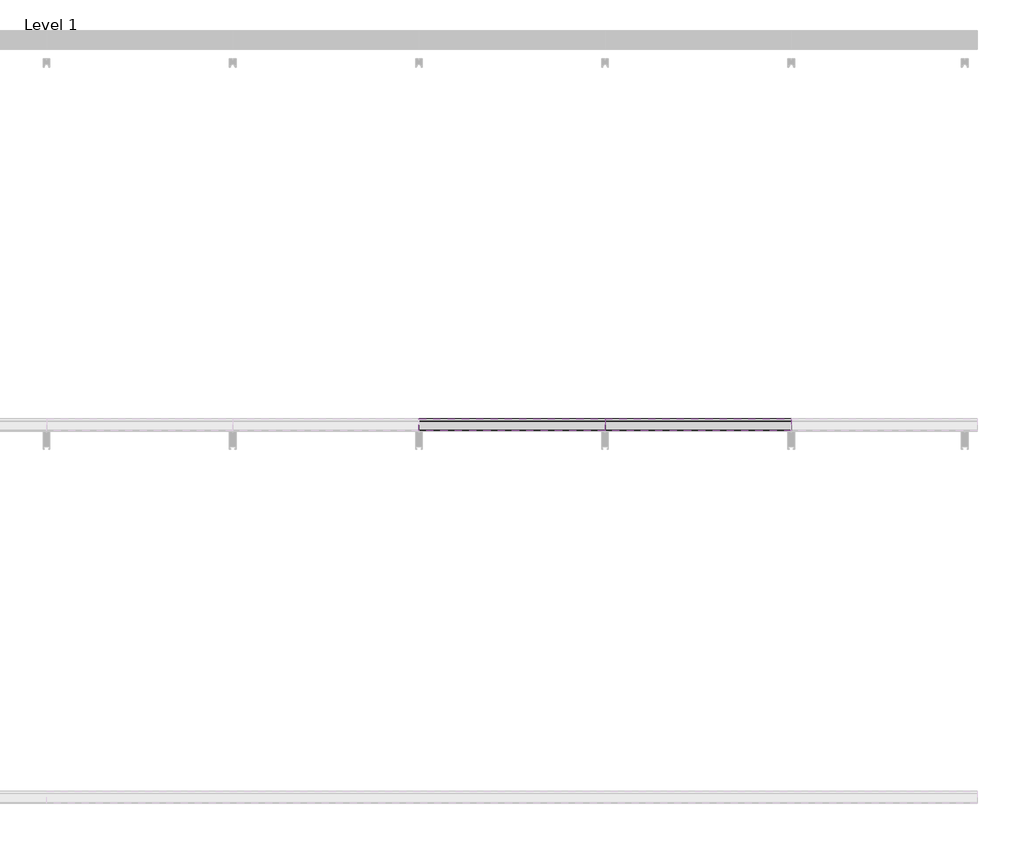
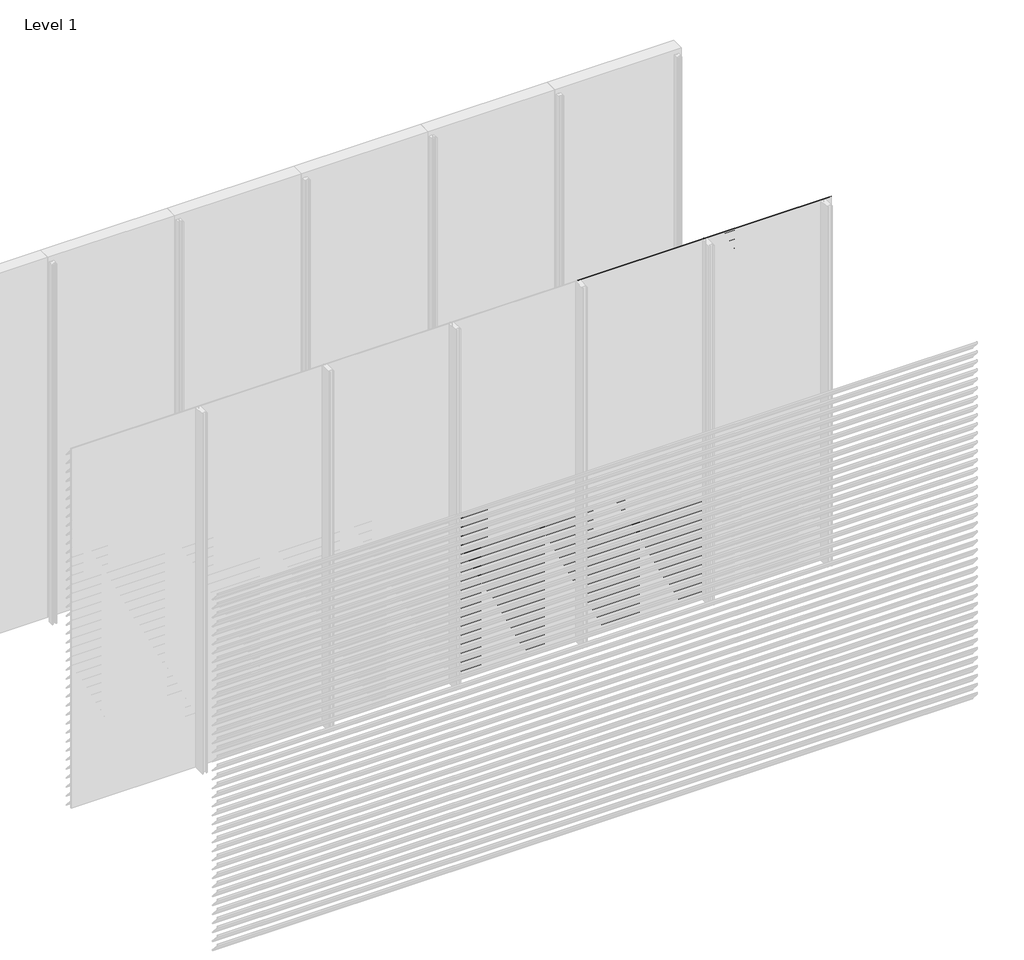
# One storey, part 25 of 35: 86 proxies.
"""IFC4 building model written with IfcOpenShell, lengths in millimetres."""

from ifc_helpers import new_model, si_unit, frame, origin, place, context, project, spatial, polyline, outline, extrude, element, save

model = new_model("IFC4")

# Units and contexts
model_context = context("Model", 3, world=origin())
ifc_project = project(units=[si_unit("LENGTHUNIT", "METRE", prefix="MILLI")], contexts=[model_context])

# Site, building, storey
site = spatial("IfcSite", under=ifc_project)
building = spatial("IfcBuilding", under=site)
storey = spatial("IfcBuildingStorey", under=building, Name="Level 1", Elevation=0.0)

# Proxies
placement = place(None, origin())
element("IfcBuildingElementProxy", 1, Name="Wall Sweeps", at=placement, inside=storey, context=model_context, shape_type="SweptSolid", body=[
    extrude(outline(polyline([(-17996.5, 2925.0), (-17996.5, 2910.5463701), (-17934.5, 2838.9330051), (-17934.5, 2835.4), (-17936.0, 2835.4), (-17936.0, 2838.3738975), (-17998.0, 2909.9872626), (-17998.0, 2925.0), (-17996.5, 2925.0)])), frame((3000.0, 0.0, 0.0), z_axis=(1.0, 0.0, 0.0), x_axis=(0.0, 1.0, 0.0)), (0.0, 0.0, 1.0), 1000.0),
])
element("IfcBuildingElementProxy", 2, Name="Wall Sweeps", at=placement, inside=storey, context=model_context, shape_type="SweptSolid", body=[
    extrude(outline(polyline([(-17996.5, 2850.0), (-17996.5, 2835.5463701), (-17934.5, 2763.9330051), (-17934.5, 2760.4), (-17936.0, 2760.4), (-17936.0, 2763.3738975), (-17998.0, 2834.9872626), (-17998.0, 2850.0), (-17996.5, 2850.0)])), frame((3000.0, 0.0, 0.0), z_axis=(1.0, 0.0, 0.0), x_axis=(0.0, 1.0, 0.0)), (0.0, 0.0, 1.0), 1000.0),
])
element("IfcBuildingElementProxy", 3, Name="Wall Sweeps", at=placement, inside=storey, context=model_context, shape_type="SweptSolid", body=[
    extrude(outline(polyline([(-17996.5, 2775.0), (-17996.5, 2760.5463701), (-17934.5, 2688.9330051), (-17934.5, 2685.4), (-17936.0, 2685.4), (-17936.0, 2688.3738975), (-17998.0, 2759.9872626), (-17998.0, 2775.0), (-17996.5, 2775.0)])), frame((3000.0, 0.0, 0.0), z_axis=(1.0, 0.0, 0.0), x_axis=(0.0, 1.0, 0.0)), (0.0, 0.0, 1.0), 1000.0),
])
element("IfcBuildingElementProxy", 4, Name="Wall Sweeps", at=placement, inside=storey, context=model_context, shape_type="SweptSolid", body=[
    extrude(outline(polyline([(-17996.5, 2700.0), (-17996.5, 2685.5463701), (-17934.5, 2613.9330051), (-17934.5, 2610.4), (-17936.0, 2610.4), (-17936.0, 2613.3738975), (-17998.0, 2684.9872626), (-17998.0, 2700.0), (-17996.5, 2700.0)])), frame((3000.0, 0.0, 0.0), z_axis=(1.0, 0.0, 0.0), x_axis=(0.0, 1.0, 0.0)), (0.0, 0.0, 1.0), 1000.0),
])
element("IfcBuildingElementProxy", 5, Name="Wall Sweeps", at=placement, inside=storey, context=model_context, shape_type="SweptSolid", body=[
    extrude(outline(polyline([(-17996.5, 2625.0), (-17996.5, 2610.5463701), (-17934.5, 2538.9330051), (-17934.5, 2535.4), (-17936.0, 2535.4), (-17936.0, 2538.3738975), (-17998.0, 2609.9872626), (-17998.0, 2625.0), (-17996.5, 2625.0)])), frame((3000.0, 0.0, 0.0), z_axis=(1.0, 0.0, 0.0), x_axis=(0.0, 1.0, 0.0)), (0.0, 0.0, 1.0), 1000.0),
])
element("IfcBuildingElementProxy", 6, Name="Wall Sweeps", at=placement, inside=storey, context=model_context, shape_type="SweptSolid", body=[
    extrude(outline(polyline([(-17996.5, 2550.0), (-17996.5, 2535.5463701), (-17934.5, 2463.9330051), (-17934.5, 2460.4), (-17936.0, 2460.4), (-17936.0, 2463.3738975), (-17998.0, 2534.9872626), (-17998.0, 2550.0), (-17996.5, 2550.0)])), frame((3000.0, 0.0, 0.0), z_axis=(1.0, 0.0, 0.0), x_axis=(0.0, 1.0, 0.0)), (0.0, 0.0, 1.0), 1000.0),
])
element("IfcBuildingElementProxy", 7, Name="Wall Sweeps", at=placement, inside=storey, context=model_context, shape_type="SweptSolid", body=[
    extrude(outline(polyline([(-17996.5, 2475.0), (-17996.5, 2460.5463701), (-17934.5, 2388.9330051), (-17934.5, 2385.4), (-17936.0, 2385.4), (-17936.0, 2388.3738975), (-17998.0, 2459.9872626), (-17998.0, 2475.0), (-17996.5, 2475.0)])), frame((3000.0, 0.0, 0.0), z_axis=(1.0, 0.0, 0.0), x_axis=(0.0, 1.0, 0.0)), (0.0, 0.0, 1.0), 1000.0),
])
element("IfcBuildingElementProxy", 8, Name="Wall Sweeps", at=placement, inside=storey, context=model_context, shape_type="SweptSolid", body=[
    extrude(outline(polyline([(-17996.5, 2400.0), (-17996.5, 2385.5463701), (-17934.5, 2313.9330051), (-17934.5, 2310.4), (-17936.0, 2310.4), (-17936.0, 2313.3738975), (-17998.0, 2384.9872626), (-17998.0, 2400.0), (-17996.5, 2400.0)])), frame((3000.0, 0.0, 0.0), z_axis=(1.0, 0.0, 0.0), x_axis=(0.0, 1.0, 0.0)), (0.0, 0.0, 1.0), 1000.0),
])
element("IfcBuildingElementProxy", 9, Name="Wall Sweeps", at=placement, inside=storey, context=model_context, shape_type="SweptSolid", body=[
    extrude(outline(polyline([(-17996.5, 2325.0), (-17996.5, 2310.5463701), (-17934.5, 2238.9330051), (-17934.5, 2235.4), (-17936.0, 2235.4), (-17936.0, 2238.3738975), (-17998.0, 2309.9872626), (-17998.0, 2325.0), (-17996.5, 2325.0)])), frame((3000.0, 0.0, 0.0), z_axis=(1.0, 0.0, 0.0), x_axis=(0.0, 1.0, 0.0)), (0.0, 0.0, 1.0), 1000.0),
])
element("IfcBuildingElementProxy", 10, Name="Wall Sweeps", at=placement, inside=storey, context=model_context, shape_type="SweptSolid", body=[
    extrude(outline(polyline([(-17996.5, 2250.0), (-17996.5, 2235.5463701), (-17934.5, 2163.9330051), (-17934.5, 2160.4), (-17936.0, 2160.4), (-17936.0, 2163.3738975), (-17998.0, 2234.9872626), (-17998.0, 2250.0), (-17996.5, 2250.0)])), frame((3000.0, 0.0, 0.0), z_axis=(1.0, 0.0, 0.0), x_axis=(0.0, 1.0, 0.0)), (0.0, 0.0, 1.0), 1000.0),
])
element("IfcBuildingElementProxy", 11, Name="Wall Sweeps", at=placement, inside=storey, context=model_context, shape_type="SweptSolid", body=[
    extrude(outline(polyline([(-17996.5, 2175.0), (-17996.5, 2160.5463701), (-17934.5, 2088.9330051), (-17934.5, 2085.4), (-17936.0, 2085.4), (-17936.0, 2088.3738975), (-17998.0, 2159.9872626), (-17998.0, 2175.0), (-17996.5, 2175.0)])), frame((3000.0, 0.0, 0.0), z_axis=(1.0, 0.0, 0.0), x_axis=(0.0, 1.0, 0.0)), (0.0, 0.0, 1.0), 1000.0),
])
element("IfcBuildingElementProxy", 12, Name="Wall Sweeps", at=placement, inside=storey, context=model_context, shape_type="SweptSolid", body=[
    extrude(outline(polyline([(-17996.5, 2100.0), (-17996.5, 2085.5463701), (-17934.5, 2013.9330051), (-17934.5, 2010.4), (-17936.0, 2010.4), (-17936.0, 2013.3738975), (-17998.0, 2084.9872626), (-17998.0, 2100.0), (-17996.5, 2100.0)])), frame((3000.0, 0.0, 0.0), z_axis=(1.0, 0.0, 0.0), x_axis=(0.0, 1.0, 0.0)), (0.0, 0.0, 1.0), 1000.0),
])
element("IfcBuildingElementProxy", 13, Name="Wall Sweeps", at=placement, inside=storey, context=model_context, shape_type="SweptSolid", body=[
    extrude(outline(polyline([(-17996.5, 2025.0), (-17996.5, 2010.5463701), (-17934.5, 1938.9330051), (-17934.5, 1935.4), (-17936.0, 1935.4), (-17936.0, 1938.3738975), (-17998.0, 2009.9872626), (-17998.0, 2025.0), (-17996.5, 2025.0)])), frame((3000.0, 0.0, 0.0), z_axis=(1.0, 0.0, 0.0), x_axis=(0.0, 1.0, 0.0)), (0.0, 0.0, 1.0), 1000.0),
])
element("IfcBuildingElementProxy", 14, Name="Wall Sweeps", at=placement, inside=storey, context=model_context, shape_type="SweptSolid", body=[
    extrude(outline(polyline([(-17996.5, 1950.0), (-17996.5, 1935.5463701), (-17934.5, 1863.9330051), (-17934.5, 1860.4), (-17936.0, 1860.4), (-17936.0, 1863.3738975), (-17998.0, 1934.9872626), (-17998.0, 1950.0), (-17996.5, 1950.0)])), frame((3000.0, 0.0, 0.0), z_axis=(1.0, 0.0, 0.0), x_axis=(0.0, 1.0, 0.0)), (0.0, 0.0, 1.0), 1000.0),
])
element("IfcBuildingElementProxy", 15, Name="Wall Sweeps", at=placement, inside=storey, context=model_context, shape_type="SweptSolid", body=[
    extrude(outline(polyline([(-17996.5, 1875.0), (-17996.5, 1860.5463701), (-17934.5, 1788.9330051), (-17934.5, 1785.4), (-17936.0, 1785.4), (-17936.0, 1788.3738975), (-17998.0, 1859.9872626), (-17998.0, 1875.0), (-17996.5, 1875.0)])), frame((3000.0, 0.0, 0.0), z_axis=(1.0, 0.0, 0.0), x_axis=(0.0, 1.0, 0.0)), (0.0, 0.0, 1.0), 1000.0),
])
element("IfcBuildingElementProxy", 16, Name="Wall Sweeps", at=placement, inside=storey, context=model_context, shape_type="SweptSolid", body=[
    extrude(outline(polyline([(-17996.5, 1800.0), (-17996.5, 1785.5463701), (-17934.5, 1713.9330051), (-17934.5, 1710.4), (-17936.0, 1710.4), (-17936.0, 1713.3738975), (-17998.0, 1784.9872626), (-17998.0, 1800.0), (-17996.5, 1800.0)])), frame((3000.0, 0.0, 0.0), z_axis=(1.0, 0.0, 0.0), x_axis=(0.0, 1.0, 0.0)), (0.0, 0.0, 1.0), 1000.0),
])
element("IfcBuildingElementProxy", 17, Name="Wall Sweeps", at=placement, inside=storey, context=model_context, shape_type="SweptSolid", body=[
    extrude(outline(polyline([(-17996.5, 1725.0), (-17996.5, 1710.5463701), (-17934.5, 1638.9330051), (-17934.5, 1635.4), (-17936.0, 1635.4), (-17936.0, 1638.3738975), (-17998.0, 1709.9872626), (-17998.0, 1725.0), (-17996.5, 1725.0)])), frame((3000.0, 0.0, 0.0), z_axis=(1.0, 0.0, 0.0), x_axis=(0.0, 1.0, 0.0)), (0.0, 0.0, 1.0), 1000.0),
])
element("IfcBuildingElementProxy", 18, Name="Wall Sweeps", at=placement, inside=storey, context=model_context, shape_type="SweptSolid", body=[
    extrude(outline(polyline([(-17996.5, 1650.0), (-17996.5, 1635.5463701), (-17934.5, 1563.9330051), (-17934.5, 1560.4), (-17936.0, 1560.4), (-17936.0, 1563.3738975), (-17998.0, 1634.9872626), (-17998.0, 1650.0), (-17996.5, 1650.0)])), frame((3000.0, 0.0, 0.0), z_axis=(1.0, 0.0, 0.0), x_axis=(0.0, 1.0, 0.0)), (0.0, 0.0, 1.0), 1000.0),
])
element("IfcBuildingElementProxy", 19, Name="Wall Sweeps", at=placement, inside=storey, context=model_context, shape_type="SweptSolid", body=[
    extrude(outline(polyline([(-17996.5, 1575.0), (-17996.5, 1560.5463701), (-17934.5, 1488.9330051), (-17934.5, 1485.4), (-17936.0, 1485.4), (-17936.0, 1488.3738975), (-17998.0, 1559.9872626), (-17998.0, 1575.0), (-17996.5, 1575.0)])), frame((3000.0, 0.0, 0.0), z_axis=(1.0, 0.0, 0.0), x_axis=(0.0, 1.0, 0.0)), (0.0, 0.0, 1.0), 1000.0),
])
element("IfcBuildingElementProxy", 20, Name="Wall Sweeps", at=placement, inside=storey, context=model_context, shape_type="SweptSolid", body=[
    extrude(outline(polyline([(-17996.5, 1500.0), (-17996.5, 1485.5463701), (-17934.5, 1413.9330051), (-17934.5, 1410.4), (-17936.0, 1410.4), (-17936.0, 1413.3738975), (-17998.0, 1484.9872626), (-17998.0, 1500.0), (-17996.5, 1500.0)])), frame((3000.0, 0.0, 0.0), z_axis=(1.0, 0.0, 0.0), x_axis=(0.0, 1.0, 0.0)), (0.0, 0.0, 1.0), 1000.0),
])
element("IfcBuildingElementProxy", 21, Name="Wall Sweeps", at=placement, inside=storey, context=model_context, shape_type="SweptSolid", body=[
    extrude(outline(polyline([(-17996.5, 1425.0), (-17996.5, 1410.5463701), (-17934.5, 1338.9330051), (-17934.5, 1335.4), (-17936.0, 1335.4), (-17936.0, 1338.3738975), (-17998.0, 1409.9872626), (-17998.0, 1425.0), (-17996.5, 1425.0)])), frame((3000.0, 0.0, 0.0), z_axis=(1.0, 0.0, 0.0), x_axis=(0.0, 1.0, 0.0)), (0.0, 0.0, 1.0), 1000.0),
])
element("IfcBuildingElementProxy", 22, Name="Wall Sweeps", at=placement, inside=storey, context=model_context, shape_type="SweptSolid", body=[
    extrude(outline(polyline([(-17996.5, 1350.0), (-17996.5, 1335.5463701), (-17934.5, 1263.9330051), (-17934.5, 1260.4), (-17936.0, 1260.4), (-17936.0, 1263.3738975), (-17998.0, 1334.9872626), (-17998.0, 1350.0), (-17996.5, 1350.0)])), frame((3000.0, 0.0, 0.0), z_axis=(1.0, 0.0, 0.0), x_axis=(0.0, 1.0, 0.0)), (0.0, 0.0, 1.0), 1000.0),
])
element("IfcBuildingElementProxy", 23, Name="Wall Sweeps", at=placement, inside=storey, context=model_context, shape_type="SweptSolid", body=[
    extrude(outline(polyline([(-17996.5, 1275.0), (-17996.5, 1260.5463701), (-17934.5, 1188.9330051), (-17934.5, 1185.4), (-17936.0, 1185.4), (-17936.0, 1188.3738975), (-17998.0, 1259.9872626), (-17998.0, 1275.0), (-17996.5, 1275.0)])), frame((3000.0, 0.0, 0.0), z_axis=(1.0, 0.0, 0.0), x_axis=(0.0, 1.0, 0.0)), (0.0, 0.0, 1.0), 1000.0),
])
element("IfcBuildingElementProxy", 24, Name="Wall Sweeps", at=placement, inside=storey, context=model_context, shape_type="SweptSolid", body=[
    extrude(outline(polyline([(-17996.5, 1200.0), (-17996.5, 1185.5463701), (-17934.5, 1113.9330051), (-17934.5, 1110.4), (-17936.0, 1110.4), (-17936.0, 1113.3738975), (-17998.0, 1184.9872626), (-17998.0, 1200.0), (-17996.5, 1200.0)])), frame((3000.0, 0.0, 0.0), z_axis=(1.0, 0.0, 0.0), x_axis=(0.0, 1.0, 0.0)), (0.0, 0.0, 1.0), 1000.0),
])
element("IfcBuildingElementProxy", 25, Name="Wall Sweeps", at=placement, inside=storey, context=model_context, shape_type="SweptSolid", body=[
    extrude(outline(polyline([(-17996.5, 1125.0), (-17996.5, 1110.5463701), (-17934.5, 1038.9330051), (-17934.5, 1035.4), (-17936.0, 1035.4), (-17936.0, 1038.3738975), (-17998.0, 1109.9872626), (-17998.0, 1125.0), (-17996.5, 1125.0)])), frame((3000.0, 0.0, 0.0), z_axis=(1.0, 0.0, 0.0), x_axis=(0.0, 1.0, 0.0)), (0.0, 0.0, 1.0), 1000.0),
])
element("IfcBuildingElementProxy", 26, Name="Wall Sweeps", at=placement, inside=storey, context=model_context, shape_type="SweptSolid", body=[
    extrude(outline(polyline([(-17996.5, 1050.0), (-17996.5, 1035.5463701), (-17934.5, 963.9330051), (-17934.5, 960.4), (-17936.0, 960.4), (-17936.0, 963.3738975), (-17998.0, 1034.9872626), (-17998.0, 1050.0), (-17996.5, 1050.0)])), frame((3000.0, 0.0, 0.0), z_axis=(1.0, 0.0, 0.0), x_axis=(0.0, 1.0, 0.0)), (0.0, 0.0, 1.0), 1000.0),
])
element("IfcBuildingElementProxy", 27, Name="Wall Sweeps", at=placement, inside=storey, context=model_context, shape_type="SweptSolid", body=[
    extrude(outline(polyline([(-17996.5, 975.0), (-17996.5, 960.5463701), (-17934.5, 888.9330051), (-17934.5, 885.4), (-17936.0, 885.4), (-17936.0, 888.3738975), (-17998.0, 959.9872626), (-17998.0, 975.0), (-17996.5, 975.0)])), frame((3000.0, 0.0, 0.0), z_axis=(1.0, 0.0, 0.0), x_axis=(0.0, 1.0, 0.0)), (0.0, 0.0, 1.0), 1000.0),
])
element("IfcBuildingElementProxy", 28, Name="Wall Sweeps", at=placement, inside=storey, context=model_context, shape_type="SweptSolid", body=[
    extrude(outline(polyline([(-17996.5, 900.0), (-17996.5, 885.5463701), (-17934.5, 813.9330051), (-17934.5, 810.4), (-17936.0, 810.4), (-17936.0, 813.3738975), (-17998.0, 884.9872626), (-17998.0, 900.0), (-17996.5, 900.0)])), frame((3000.0, 0.0, 0.0), z_axis=(1.0, 0.0, 0.0), x_axis=(0.0, 1.0, 0.0)), (0.0, 0.0, 1.0), 1000.0),
])
element("IfcBuildingElementProxy", 29, Name="Wall Sweeps", at=placement, inside=storey, context=model_context, shape_type="SweptSolid", body=[
    extrude(outline(polyline([(-17996.5, 825.0), (-17996.5, 810.5463701), (-17934.5, 738.9330051), (-17934.5, 735.4), (-17936.0, 735.4), (-17936.0, 738.3738975), (-17998.0, 809.9872626), (-17998.0, 825.0), (-17996.5, 825.0)])), frame((3000.0, 0.0, 0.0), z_axis=(1.0, 0.0, 0.0), x_axis=(0.0, 1.0, 0.0)), (0.0, 0.0, 1.0), 1000.0),
])
element("IfcBuildingElementProxy", 30, Name="Wall Sweeps", at=placement, inside=storey, context=model_context, shape_type="SweptSolid", body=[
    extrude(outline(polyline([(-17996.5, 750.0), (-17996.5, 735.5463701), (-17934.5, 663.9330051), (-17934.5, 660.4), (-17936.0, 660.4), (-17936.0, 663.3738975), (-17998.0, 734.9872626), (-17998.0, 750.0), (-17996.5, 750.0)])), frame((3000.0, 0.0, 0.0), z_axis=(1.0, 0.0, 0.0), x_axis=(0.0, 1.0, 0.0)), (0.0, 0.0, 1.0), 1000.0),
])
element("IfcBuildingElementProxy", 31, Name="Wall Sweeps", at=placement, inside=storey, context=model_context, shape_type="SweptSolid", body=[
    extrude(outline(polyline([(-17996.5, 675.0), (-17996.5, 660.5463701), (-17934.5, 588.9330051), (-17934.5, 585.4), (-17936.0, 585.4), (-17936.0, 588.3738975), (-17998.0, 659.9872626), (-17998.0, 675.0), (-17996.5, 675.0)])), frame((3000.0, 0.0, 0.0), z_axis=(1.0, 0.0, 0.0), x_axis=(0.0, 1.0, 0.0)), (0.0, 0.0, 1.0), 1000.0),
])
element("IfcBuildingElementProxy", 32, Name="Wall Sweeps", at=placement, inside=storey, context=model_context, shape_type="SweptSolid", body=[
    extrude(outline(polyline([(-17996.5, 600.0), (-17996.5, 585.5463701), (-17934.5, 513.9330051), (-17934.5, 510.4), (-17936.0, 510.4), (-17936.0, 513.3738975), (-17998.0, 584.9872626), (-17998.0, 600.0), (-17996.5, 600.0)])), frame((3000.0, 0.0, 0.0), z_axis=(1.0, 0.0, 0.0), x_axis=(0.0, 1.0, 0.0)), (0.0, 0.0, 1.0), 1000.0),
])
element("IfcBuildingElementProxy", 33, Name="Wall Sweeps", at=placement, inside=storey, context=model_context, shape_type="SweptSolid", body=[
    extrude(outline(polyline([(-17996.5, 525.0), (-17996.5, 510.5463701), (-17934.5, 438.9330051), (-17934.5, 435.4), (-17936.0, 435.4), (-17936.0, 438.3738975), (-17998.0, 509.9872626), (-17998.0, 525.0), (-17996.5, 525.0)])), frame((3000.0, 0.0, 0.0), z_axis=(1.0, 0.0, 0.0), x_axis=(0.0, 1.0, 0.0)), (0.0, 0.0, 1.0), 1000.0),
])
element("IfcBuildingElementProxy", 34, Name="Wall Sweeps", at=placement, inside=storey, context=model_context, shape_type="SweptSolid", body=[
    extrude(outline(polyline([(-17996.5, 450.0), (-17996.5, 435.5463701), (-17934.5, 363.9330051), (-17934.5, 360.4), (-17936.0, 360.4), (-17936.0, 363.3738975), (-17998.0, 434.9872626), (-17998.0, 450.0), (-17996.5, 450.0)])), frame((3000.0, 0.0, 0.0), z_axis=(1.0, 0.0, 0.0), x_axis=(0.0, 1.0, 0.0)), (0.0, 0.0, 1.0), 1000.0),
])
element("IfcBuildingElementProxy", 35, Name="Wall Sweeps", at=placement, inside=storey, context=model_context, shape_type="SweptSolid", body=[
    extrude(outline(polyline([(-17996.5, 375.0), (-17996.5, 360.5463701), (-17934.5, 288.9330051), (-17934.5, 285.4), (-17936.0, 285.4), (-17936.0, 288.3738975), (-17998.0, 359.9872626), (-17998.0, 375.0), (-17996.5, 375.0)])), frame((3000.0, 0.0, 0.0), z_axis=(1.0, 0.0, 0.0), x_axis=(0.0, 1.0, 0.0)), (0.0, 0.0, 1.0), 1000.0),
])
element("IfcBuildingElementProxy", 36, Name="Wall Sweeps", at=placement, inside=storey, context=model_context, shape_type="SweptSolid", body=[
    extrude(outline(polyline([(-17996.5, 300.0), (-17996.5, 285.5463701), (-17934.5, 213.9330051), (-17934.5, 210.4), (-17936.0, 210.4), (-17936.0, 213.3738975), (-17998.0, 284.9872626), (-17998.0, 300.0), (-17996.5, 300.0)])), frame((3000.0, 0.0, 0.0), z_axis=(1.0, 0.0, 0.0), x_axis=(0.0, 1.0, 0.0)), (0.0, 0.0, 1.0), 1000.0),
])
element("IfcBuildingElementProxy", 37, Name="Wall Sweeps", at=placement, inside=storey, context=model_context, shape_type="SweptSolid", body=[
    extrude(outline(polyline([(-17996.5, 225.0), (-17996.5, 210.5463701), (-17934.5, 138.9330051), (-17934.5, 135.4), (-17936.0, 135.4), (-17936.0, 138.3738975), (-17998.0, 209.9872626), (-17998.0, 225.0), (-17996.5, 225.0)])), frame((3000.0, 0.0, 0.0), z_axis=(1.0, 0.0, 0.0), x_axis=(0.0, 1.0, 0.0)), (0.0, 0.0, 1.0), 1000.0),
])
element("IfcBuildingElementProxy", 38, Name="Wall Sweeps", at=placement, inside=storey, context=model_context, shape_type="SweptSolid", body=[
    extrude(outline(polyline([(-17996.5, 150.0), (-17996.5, 135.5463701), (-17934.5, 63.9330051), (-17934.5, 60.4), (-17936.0, 60.4), (-17936.0, 63.3738975), (-17998.0, 134.9872626), (-17998.0, 150.0), (-17996.5, 150.0)])), frame((3000.0, 0.0, 0.0), z_axis=(1.0, 0.0, 0.0), x_axis=(0.0, 1.0, 0.0)), (0.0, 0.0, 1.0), 1000.0),
])
element("IfcBuildingElementProxy", 39, Name="Wall Sweeps", at=placement, inside=storey, context=model_context, shape_type="SweptSolid", body=[
    extrude(outline(polyline([(-17996.5, 75.0), (-17996.5, 60.5463701), (-17934.5, -11.0669949), (-17934.5, -14.6), (-17936.0, -14.6), (-17936.0, -11.6261025), (-17998.0, 59.9872626), (-17998.0, 75.0), (-17996.5, 75.0)])), frame((3000.0, 0.0, 0.0), z_axis=(1.0, 0.0, 0.0), x_axis=(0.0, 1.0, 0.0)), (0.0, 0.0, 1.0), 1000.0),
])
element("IfcBuildingElementProxy", 40, Name="Wall Sweeps", at=placement, inside=storey, context=model_context, shape_type="SweptSolid", body=[
    extrude(outline(polyline([(-17996.5, 3000.0), (-17996.5, 2985.5463701), (-17934.5, 2913.9330051), (-17934.5, 2910.4), (-17936.0, 2910.4), (-17936.0, 2913.3738975), (-17998.0, 2984.9872626), (-17998.0, 3000.0), (-17996.5, 3000.0)])), frame((4000.0, 0.0, 0.0), z_axis=(1.0, 0.0, 0.0), x_axis=(0.0, 1.0, 0.0)), (0.0, 0.0, 1.0), 1000.0),
])
element("IfcBuildingElementProxy", 41, Name="Wall Sweeps", at=placement, inside=storey, context=model_context, shape_type="SweptSolid", body=[
    extrude(outline(polyline([(-17996.5, 2925.0), (-17996.5, 2910.5463701), (-17934.5, 2838.9330051), (-17934.5, 2835.4), (-17936.0, 2835.4), (-17936.0, 2838.3738975), (-17998.0, 2909.9872626), (-17998.0, 2925.0), (-17996.5, 2925.0)])), frame((4000.0, 0.0, 0.0), z_axis=(1.0, 0.0, 0.0), x_axis=(0.0, 1.0, 0.0)), (0.0, 0.0, 1.0), 1000.0),
])
element("IfcBuildingElementProxy", 42, Name="Wall Sweeps", at=placement, inside=storey, context=model_context, shape_type="SweptSolid", body=[
    extrude(outline(polyline([(-17996.5, 2850.0), (-17996.5, 2835.5463701), (-17934.5, 2763.9330051), (-17934.5, 2760.4), (-17936.0, 2760.4), (-17936.0, 2763.3738975), (-17998.0, 2834.9872626), (-17998.0, 2850.0), (-17996.5, 2850.0)])), frame((4000.0, 0.0, 0.0), z_axis=(1.0, 0.0, 0.0), x_axis=(0.0, 1.0, 0.0)), (0.0, 0.0, 1.0), 1000.0),
])
element("IfcBuildingElementProxy", 43, Name="Wall Sweeps", at=placement, inside=storey, context=model_context, shape_type="SweptSolid", body=[
    extrude(outline(polyline([(-17996.5, 2775.0), (-17996.5, 2760.5463701), (-17934.5, 2688.9330051), (-17934.5, 2685.4), (-17936.0, 2685.4), (-17936.0, 2688.3738975), (-17998.0, 2759.9872626), (-17998.0, 2775.0), (-17996.5, 2775.0)])), frame((4000.0, 0.0, 0.0), z_axis=(1.0, 0.0, 0.0), x_axis=(0.0, 1.0, 0.0)), (0.0, 0.0, 1.0), 1000.0),
])
element("IfcBuildingElementProxy", 44, Name="Wall Sweeps", at=placement, inside=storey, context=model_context, shape_type="SweptSolid", body=[
    extrude(outline(polyline([(-17996.5, 2700.0), (-17996.5, 2685.5463701), (-17934.5, 2613.9330051), (-17934.5, 2610.4), (-17936.0, 2610.4), (-17936.0, 2613.3738975), (-17998.0, 2684.9872626), (-17998.0, 2700.0), (-17996.5, 2700.0)])), frame((4000.0, 0.0, 0.0), z_axis=(1.0, 0.0, 0.0), x_axis=(0.0, 1.0, 0.0)), (0.0, 0.0, 1.0), 1000.0),
])
element("IfcBuildingElementProxy", 45, Name="Wall Sweeps", at=placement, inside=storey, context=model_context, shape_type="SweptSolid", body=[
    extrude(outline(polyline([(-17996.5, 2625.0), (-17996.5, 2610.5463701), (-17934.5, 2538.9330051), (-17934.5, 2535.4), (-17936.0, 2535.4), (-17936.0, 2538.3738975), (-17998.0, 2609.9872626), (-17998.0, 2625.0), (-17996.5, 2625.0)])), frame((4000.0, 0.0, 0.0), z_axis=(1.0, 0.0, 0.0), x_axis=(0.0, 1.0, 0.0)), (0.0, 0.0, 1.0), 1000.0),
])
element("IfcBuildingElementProxy", 46, Name="Wall Sweeps", at=placement, inside=storey, context=model_context, shape_type="SweptSolid", body=[
    extrude(outline(polyline([(-17996.5, 2550.0), (-17996.5, 2535.5463701), (-17934.5, 2463.9330051), (-17934.5, 2460.4), (-17936.0, 2460.4), (-17936.0, 2463.3738975), (-17998.0, 2534.9872626), (-17998.0, 2550.0), (-17996.5, 2550.0)])), frame((4000.0, 0.0, 0.0), z_axis=(1.0, 0.0, 0.0), x_axis=(0.0, 1.0, 0.0)), (0.0, 0.0, 1.0), 1000.0),
])
element("IfcBuildingElementProxy", 47, Name="Wall Sweeps", at=placement, inside=storey, context=model_context, shape_type="SweptSolid", body=[
    extrude(outline(polyline([(-17996.5, 2475.0), (-17996.5, 2460.5463701), (-17934.5, 2388.9330051), (-17934.5, 2385.4), (-17936.0, 2385.4), (-17936.0, 2388.3738975), (-17998.0, 2459.9872626), (-17998.0, 2475.0), (-17996.5, 2475.0)])), frame((4000.0, 0.0, 0.0), z_axis=(1.0, 0.0, 0.0), x_axis=(0.0, 1.0, 0.0)), (0.0, 0.0, 1.0), 1000.0),
])
element("IfcBuildingElementProxy", 48, Name="Wall Sweeps", at=placement, inside=storey, context=model_context, shape_type="SweptSolid", body=[
    extrude(outline(polyline([(-17996.5, 2400.0), (-17996.5, 2385.5463701), (-17934.5, 2313.9330051), (-17934.5, 2310.4), (-17936.0, 2310.4), (-17936.0, 2313.3738975), (-17998.0, 2384.9872626), (-17998.0, 2400.0), (-17996.5, 2400.0)])), frame((4000.0, 0.0, 0.0), z_axis=(1.0, 0.0, 0.0), x_axis=(0.0, 1.0, 0.0)), (0.0, 0.0, 1.0), 1000.0),
])
element("IfcBuildingElementProxy", 49, Name="Wall Sweeps", at=placement, inside=storey, context=model_context, shape_type="SweptSolid", body=[
    extrude(outline(polyline([(-17996.5, 2325.0), (-17996.5, 2310.5463701), (-17934.5, 2238.9330051), (-17934.5, 2235.4), (-17936.0, 2235.4), (-17936.0, 2238.3738975), (-17998.0, 2309.9872626), (-17998.0, 2325.0), (-17996.5, 2325.0)])), frame((4000.0, 0.0, 0.0), z_axis=(1.0, 0.0, 0.0), x_axis=(0.0, 1.0, 0.0)), (0.0, 0.0, 1.0), 1000.0),
])
element("IfcBuildingElementProxy", 50, Name="Wall Sweeps", at=placement, inside=storey, context=model_context, shape_type="SweptSolid", body=[
    extrude(outline(polyline([(-17996.5, 2250.0), (-17996.5, 2235.5463701), (-17934.5, 2163.9330051), (-17934.5, 2160.4), (-17936.0, 2160.4), (-17936.0, 2163.3738975), (-17998.0, 2234.9872626), (-17998.0, 2250.0), (-17996.5, 2250.0)])), frame((4000.0, 0.0, 0.0), z_axis=(1.0, 0.0, 0.0), x_axis=(0.0, 1.0, 0.0)), (0.0, 0.0, 1.0), 1000.0),
])
element("IfcBuildingElementProxy", 51, Name="Wall Sweeps", at=placement, inside=storey, context=model_context, shape_type="SweptSolid", body=[
    extrude(outline(polyline([(-17996.5, 2175.0), (-17996.5, 2160.5463701), (-17934.5, 2088.9330051), (-17934.5, 2085.4), (-17936.0, 2085.4), (-17936.0, 2088.3738975), (-17998.0, 2159.9872626), (-17998.0, 2175.0), (-17996.5, 2175.0)])), frame((4000.0, 0.0, 0.0), z_axis=(1.0, 0.0, 0.0), x_axis=(0.0, 1.0, 0.0)), (0.0, 0.0, 1.0), 1000.0),
])
element("IfcBuildingElementProxy", 52, Name="Wall Sweeps", at=placement, inside=storey, context=model_context, shape_type="SweptSolid", body=[
    extrude(outline(polyline([(-17996.5, 2100.0), (-17996.5, 2085.5463701), (-17934.5, 2013.9330051), (-17934.5, 2010.4), (-17936.0, 2010.4), (-17936.0, 2013.3738975), (-17998.0, 2084.9872626), (-17998.0, 2100.0), (-17996.5, 2100.0)])), frame((4000.0, 0.0, 0.0), z_axis=(1.0, 0.0, 0.0), x_axis=(0.0, 1.0, 0.0)), (0.0, 0.0, 1.0), 1000.0),
])
element("IfcBuildingElementProxy", 53, Name="Wall Sweeps", at=placement, inside=storey, context=model_context, shape_type="SweptSolid", body=[
    extrude(outline(polyline([(-17996.5, 2025.0), (-17996.5, 2010.5463701), (-17934.5, 1938.9330051), (-17934.5, 1935.4), (-17936.0, 1935.4), (-17936.0, 1938.3738975), (-17998.0, 2009.9872626), (-17998.0, 2025.0), (-17996.5, 2025.0)])), frame((4000.0, 0.0, 0.0), z_axis=(1.0, 0.0, 0.0), x_axis=(0.0, 1.0, 0.0)), (0.0, 0.0, 1.0), 1000.0),
])
element("IfcBuildingElementProxy", 54, Name="Wall Sweeps", at=placement, inside=storey, context=model_context, shape_type="SweptSolid", body=[
    extrude(outline(polyline([(-17996.5, 1950.0), (-17996.5, 1935.5463701), (-17934.5, 1863.9330051), (-17934.5, 1860.4), (-17936.0, 1860.4), (-17936.0, 1863.3738975), (-17998.0, 1934.9872626), (-17998.0, 1950.0), (-17996.5, 1950.0)])), frame((4000.0, 0.0, 0.0), z_axis=(1.0, 0.0, 0.0), x_axis=(0.0, 1.0, 0.0)), (0.0, 0.0, 1.0), 1000.0),
])
element("IfcBuildingElementProxy", 55, Name="Wall Sweeps", at=placement, inside=storey, context=model_context, shape_type="SweptSolid", body=[
    extrude(outline(polyline([(-17996.5, 1875.0), (-17996.5, 1860.5463701), (-17934.5, 1788.9330051), (-17934.5, 1785.4), (-17936.0, 1785.4), (-17936.0, 1788.3738975), (-17998.0, 1859.9872626), (-17998.0, 1875.0), (-17996.5, 1875.0)])), frame((4000.0, 0.0, 0.0), z_axis=(1.0, 0.0, 0.0), x_axis=(0.0, 1.0, 0.0)), (0.0, 0.0, 1.0), 1000.0),
])
element("IfcBuildingElementProxy", 56, Name="Wall Sweeps", at=placement, inside=storey, context=model_context, shape_type="SweptSolid", body=[
    extrude(outline(polyline([(-17996.5, 1800.0), (-17996.5, 1785.5463701), (-17934.5, 1713.9330051), (-17934.5, 1710.4), (-17936.0, 1710.4), (-17936.0, 1713.3738975), (-17998.0, 1784.9872626), (-17998.0, 1800.0), (-17996.5, 1800.0)])), frame((4000.0, 0.0, 0.0), z_axis=(1.0, 0.0, 0.0), x_axis=(0.0, 1.0, 0.0)), (0.0, 0.0, 1.0), 1000.0),
])
element("IfcBuildingElementProxy", 57, Name="Wall Sweeps", at=placement, inside=storey, context=model_context, shape_type="SweptSolid", body=[
    extrude(outline(polyline([(-17996.5, 1725.0), (-17996.5, 1710.5463701), (-17934.5, 1638.9330051), (-17934.5, 1635.4), (-17936.0, 1635.4), (-17936.0, 1638.3738975), (-17998.0, 1709.9872626), (-17998.0, 1725.0), (-17996.5, 1725.0)])), frame((4000.0, 0.0, 0.0), z_axis=(1.0, 0.0, 0.0), x_axis=(0.0, 1.0, 0.0)), (0.0, 0.0, 1.0), 1000.0),
])
element("IfcBuildingElementProxy", 58, Name="Wall Sweeps", at=placement, inside=storey, context=model_context, shape_type="SweptSolid", body=[
    extrude(outline(polyline([(-17996.5, 1650.0), (-17996.5, 1635.5463701), (-17934.5, 1563.9330051), (-17934.5, 1560.4), (-17936.0, 1560.4), (-17936.0, 1563.3738975), (-17998.0, 1634.9872626), (-17998.0, 1650.0), (-17996.5, 1650.0)])), frame((4000.0, 0.0, 0.0), z_axis=(1.0, 0.0, 0.0), x_axis=(0.0, 1.0, 0.0)), (0.0, 0.0, 1.0), 1000.0),
])
element("IfcBuildingElementProxy", 59, Name="Wall Sweeps", at=placement, inside=storey, context=model_context, shape_type="SweptSolid", body=[
    extrude(outline(polyline([(-17996.5, 1575.0), (-17996.5, 1560.5463701), (-17934.5, 1488.9330051), (-17934.5, 1485.4), (-17936.0, 1485.4), (-17936.0, 1488.3738975), (-17998.0, 1559.9872626), (-17998.0, 1575.0), (-17996.5, 1575.0)])), frame((4000.0, 0.0, 0.0), z_axis=(1.0, 0.0, 0.0), x_axis=(0.0, 1.0, 0.0)), (0.0, 0.0, 1.0), 1000.0),
])
element("IfcBuildingElementProxy", 60, Name="Wall Sweeps", at=placement, inside=storey, context=model_context, shape_type="SweptSolid", body=[
    extrude(outline(polyline([(-17996.5, 1500.0), (-17996.5, 1485.5463701), (-17934.5, 1413.9330051), (-17934.5, 1410.4), (-17936.0, 1410.4), (-17936.0, 1413.3738975), (-17998.0, 1484.9872626), (-17998.0, 1500.0), (-17996.5, 1500.0)])), frame((4000.0, 0.0, 0.0), z_axis=(1.0, 0.0, 0.0), x_axis=(0.0, 1.0, 0.0)), (0.0, 0.0, 1.0), 1000.0),
])
element("IfcBuildingElementProxy", 61, Name="Wall Sweeps", at=placement, inside=storey, context=model_context, shape_type="SweptSolid", body=[
    extrude(outline(polyline([(-17996.5, 1425.0), (-17996.5, 1410.5463701), (-17934.5, 1338.9330051), (-17934.5, 1335.4), (-17936.0, 1335.4), (-17936.0, 1338.3738975), (-17998.0, 1409.9872626), (-17998.0, 1425.0), (-17996.5, 1425.0)])), frame((4000.0, 0.0, 0.0), z_axis=(1.0, 0.0, 0.0), x_axis=(0.0, 1.0, 0.0)), (0.0, 0.0, 1.0), 1000.0),
])
element("IfcBuildingElementProxy", 62, Name="Wall Sweeps", at=placement, inside=storey, context=model_context, shape_type="SweptSolid", body=[
    extrude(outline(polyline([(-17996.5, 1350.0), (-17996.5, 1335.5463701), (-17934.5, 1263.9330051), (-17934.5, 1260.4), (-17936.0, 1260.4), (-17936.0, 1263.3738975), (-17998.0, 1334.9872626), (-17998.0, 1350.0), (-17996.5, 1350.0)])), frame((4000.0, 0.0, 0.0), z_axis=(1.0, 0.0, 0.0), x_axis=(0.0, 1.0, 0.0)), (0.0, 0.0, 1.0), 1000.0),
])
element("IfcBuildingElementProxy", 63, Name="Wall Sweeps", at=placement, inside=storey, context=model_context, shape_type="SweptSolid", body=[
    extrude(outline(polyline([(-17996.5, 1275.0), (-17996.5, 1260.5463701), (-17934.5, 1188.9330051), (-17934.5, 1185.4), (-17936.0, 1185.4), (-17936.0, 1188.3738975), (-17998.0, 1259.9872626), (-17998.0, 1275.0), (-17996.5, 1275.0)])), frame((4000.0, 0.0, 0.0), z_axis=(1.0, 0.0, 0.0), x_axis=(0.0, 1.0, 0.0)), (0.0, 0.0, 1.0), 1000.0),
])
element("IfcBuildingElementProxy", 64, Name="Wall Sweeps", at=placement, inside=storey, context=model_context, shape_type="SweptSolid", body=[
    extrude(outline(polyline([(-17996.5, 1200.0), (-17996.5, 1185.5463701), (-17934.5, 1113.9330051), (-17934.5, 1110.4), (-17936.0, 1110.4), (-17936.0, 1113.3738975), (-17998.0, 1184.9872626), (-17998.0, 1200.0), (-17996.5, 1200.0)])), frame((4000.0, 0.0, 0.0), z_axis=(1.0, 0.0, 0.0), x_axis=(0.0, 1.0, 0.0)), (0.0, 0.0, 1.0), 1000.0),
])
element("IfcBuildingElementProxy", 65, Name="Wall Sweeps", at=placement, inside=storey, context=model_context, shape_type="SweptSolid", body=[
    extrude(outline(polyline([(-17996.5, 1125.0), (-17996.5, 1110.5463701), (-17934.5, 1038.9330051), (-17934.5, 1035.4), (-17936.0, 1035.4), (-17936.0, 1038.3738975), (-17998.0, 1109.9872626), (-17998.0, 1125.0), (-17996.5, 1125.0)])), frame((4000.0, 0.0, 0.0), z_axis=(1.0, 0.0, 0.0), x_axis=(0.0, 1.0, 0.0)), (0.0, 0.0, 1.0), 1000.0),
])
element("IfcBuildingElementProxy", 66, Name="Wall Sweeps", at=placement, inside=storey, context=model_context, shape_type="SweptSolid", body=[
    extrude(outline(polyline([(-17996.5, 1050.0), (-17996.5, 1035.5463701), (-17934.5, 963.9330051), (-17934.5, 960.4), (-17936.0, 960.4), (-17936.0, 963.3738975), (-17998.0, 1034.9872626), (-17998.0, 1050.0), (-17996.5, 1050.0)])), frame((4000.0, 0.0, 0.0), z_axis=(1.0, 0.0, 0.0), x_axis=(0.0, 1.0, 0.0)), (0.0, 0.0, 1.0), 1000.0),
])
element("IfcBuildingElementProxy", 67, Name="Wall Sweeps", at=placement, inside=storey, context=model_context, shape_type="SweptSolid", body=[
    extrude(outline(polyline([(-17996.5, 975.0), (-17996.5, 960.5463701), (-17934.5, 888.9330051), (-17934.5, 885.4), (-17936.0, 885.4), (-17936.0, 888.3738975), (-17998.0, 959.9872626), (-17998.0, 975.0), (-17996.5, 975.0)])), frame((4000.0, 0.0, 0.0), z_axis=(1.0, 0.0, 0.0), x_axis=(0.0, 1.0, 0.0)), (0.0, 0.0, 1.0), 1000.0),
])
element("IfcBuildingElementProxy", 68, Name="Wall Sweeps", at=placement, inside=storey, context=model_context, shape_type="SweptSolid", body=[
    extrude(outline(polyline([(-17996.5, 900.0), (-17996.5, 885.5463701), (-17934.5, 813.9330051), (-17934.5, 810.4), (-17936.0, 810.4), (-17936.0, 813.3738975), (-17998.0, 884.9872626), (-17998.0, 900.0), (-17996.5, 900.0)])), frame((4000.0, 0.0, 0.0), z_axis=(1.0, 0.0, 0.0), x_axis=(0.0, 1.0, 0.0)), (0.0, 0.0, 1.0), 1000.0),
])
element("IfcBuildingElementProxy", 69, Name="Wall Sweeps", at=placement, inside=storey, context=model_context, shape_type="SweptSolid", body=[
    extrude(outline(polyline([(-17996.5, 825.0), (-17996.5, 810.5463701), (-17934.5, 738.9330051), (-17934.5, 735.4), (-17936.0, 735.4), (-17936.0, 738.3738975), (-17998.0, 809.9872626), (-17998.0, 825.0), (-17996.5, 825.0)])), frame((4000.0, 0.0, 0.0), z_axis=(1.0, 0.0, 0.0), x_axis=(0.0, 1.0, 0.0)), (0.0, 0.0, 1.0), 1000.0),
])
element("IfcBuildingElementProxy", 70, Name="Wall Sweeps", at=placement, inside=storey, context=model_context, shape_type="SweptSolid", body=[
    extrude(outline(polyline([(-17996.5, 750.0), (-17996.5, 735.5463701), (-17934.5, 663.9330051), (-17934.5, 660.4), (-17936.0, 660.4), (-17936.0, 663.3738975), (-17998.0, 734.9872626), (-17998.0, 750.0), (-17996.5, 750.0)])), frame((4000.0, 0.0, 0.0), z_axis=(1.0, 0.0, 0.0), x_axis=(0.0, 1.0, 0.0)), (0.0, 0.0, 1.0), 1000.0),
])
element("IfcBuildingElementProxy", 71, Name="Wall Sweeps", at=placement, inside=storey, context=model_context, shape_type="SweptSolid", body=[
    extrude(outline(polyline([(-17996.5, 675.0), (-17996.5, 660.5463701), (-17934.5, 588.9330051), (-17934.5, 585.4), (-17936.0, 585.4), (-17936.0, 588.3738975), (-17998.0, 659.9872626), (-17998.0, 675.0), (-17996.5, 675.0)])), frame((4000.0, 0.0, 0.0), z_axis=(1.0, 0.0, 0.0), x_axis=(0.0, 1.0, 0.0)), (0.0, 0.0, 1.0), 1000.0),
])
element("IfcBuildingElementProxy", 72, Name="Wall Sweeps", at=placement, inside=storey, context=model_context, shape_type="SweptSolid", body=[
    extrude(outline(polyline([(-17996.5, 600.0), (-17996.5, 585.5463701), (-17934.5, 513.9330051), (-17934.5, 510.4), (-17936.0, 510.4), (-17936.0, 513.3738975), (-17998.0, 584.9872626), (-17998.0, 600.0), (-17996.5, 600.0)])), frame((4000.0, 0.0, 0.0), z_axis=(1.0, 0.0, 0.0), x_axis=(0.0, 1.0, 0.0)), (0.0, 0.0, 1.0), 1000.0),
])
element("IfcBuildingElementProxy", 73, Name="Wall Sweeps", at=placement, inside=storey, context=model_context, shape_type="SweptSolid", body=[
    extrude(outline(polyline([(-17996.5, 525.0), (-17996.5, 510.5463701), (-17934.5, 438.9330051), (-17934.5, 435.4), (-17936.0, 435.4), (-17936.0, 438.3738975), (-17998.0, 509.9872626), (-17998.0, 525.0), (-17996.5, 525.0)])), frame((4000.0, 0.0, 0.0), z_axis=(1.0, 0.0, 0.0), x_axis=(0.0, 1.0, 0.0)), (0.0, 0.0, 1.0), 1000.0),
])
element("IfcBuildingElementProxy", 74, Name="Wall Sweeps", at=placement, inside=storey, context=model_context, shape_type="SweptSolid", body=[
    extrude(outline(polyline([(-17996.5, 450.0), (-17996.5, 435.5463701), (-17934.5, 363.9330051), (-17934.5, 360.4), (-17936.0, 360.4), (-17936.0, 363.3738975), (-17998.0, 434.9872626), (-17998.0, 450.0), (-17996.5, 450.0)])), frame((4000.0, 0.0, 0.0), z_axis=(1.0, 0.0, 0.0), x_axis=(0.0, 1.0, 0.0)), (0.0, 0.0, 1.0), 1000.0),
])
element("IfcBuildingElementProxy", 75, Name="Wall Sweeps", at=placement, inside=storey, context=model_context, shape_type="SweptSolid", body=[
    extrude(outline(polyline([(-17996.5, 375.0), (-17996.5, 360.5463701), (-17934.5, 288.9330051), (-17934.5, 285.4), (-17936.0, 285.4), (-17936.0, 288.3738975), (-17998.0, 359.9872626), (-17998.0, 375.0), (-17996.5, 375.0)])), frame((4000.0, 0.0, 0.0), z_axis=(1.0, 0.0, 0.0), x_axis=(0.0, 1.0, 0.0)), (0.0, 0.0, 1.0), 1000.0),
])
element("IfcBuildingElementProxy", 76, Name="Wall Sweeps", at=placement, inside=storey, context=model_context, shape_type="SweptSolid", body=[
    extrude(outline(polyline([(-17996.5, 300.0), (-17996.5, 285.5463701), (-17934.5, 213.9330051), (-17934.5, 210.4), (-17936.0, 210.4), (-17936.0, 213.3738975), (-17998.0, 284.9872626), (-17998.0, 300.0), (-17996.5, 300.0)])), frame((4000.0, 0.0, 0.0), z_axis=(1.0, 0.0, 0.0), x_axis=(0.0, 1.0, 0.0)), (0.0, 0.0, 1.0), 1000.0),
])
element("IfcBuildingElementProxy", 77, Name="Wall Sweeps", at=placement, inside=storey, context=model_context, shape_type="SweptSolid", body=[
    extrude(outline(polyline([(-17996.5, 225.0), (-17996.5, 210.5463701), (-17934.5, 138.9330051), (-17934.5, 135.4), (-17936.0, 135.4), (-17936.0, 138.3738975), (-17998.0, 209.9872626), (-17998.0, 225.0), (-17996.5, 225.0)])), frame((4000.0, 0.0, 0.0), z_axis=(1.0, 0.0, 0.0), x_axis=(0.0, 1.0, 0.0)), (0.0, 0.0, 1.0), 1000.0),
])
element("IfcBuildingElementProxy", 78, Name="Wall Sweeps", at=placement, inside=storey, context=model_context, shape_type="SweptSolid", body=[
    extrude(outline(polyline([(-17996.5, 150.0), (-17996.5, 135.5463701), (-17934.5, 63.9330051), (-17934.5, 60.4), (-17936.0, 60.4), (-17936.0, 63.3738975), (-17998.0, 134.9872626), (-17998.0, 150.0), (-17996.5, 150.0)])), frame((4000.0, 0.0, 0.0), z_axis=(1.0, 0.0, 0.0), x_axis=(0.0, 1.0, 0.0)), (0.0, 0.0, 1.0), 1000.0),
])
element("IfcBuildingElementProxy", 79, Name="Wall Sweeps", at=placement, inside=storey, context=model_context, shape_type="SweptSolid", body=[
    extrude(outline(polyline([(-17996.5, 75.0), (-17996.5, 60.5463701), (-17934.5, -11.0669949), (-17934.5, -14.6), (-17936.0, -14.6), (-17936.0, -11.6261025), (-17998.0, 59.9872626), (-17998.0, 75.0), (-17996.5, 75.0)])), frame((4000.0, 0.0, 0.0), z_axis=(1.0, 0.0, 0.0), x_axis=(0.0, 1.0, 0.0)), (0.0, 0.0, 1.0), 1000.0),
])
element("IfcBuildingElementProxy", 80, Name="Wall Sweeps", at=placement, inside=storey, context=model_context, shape_type="SweptSolid", body=[
    extrude(outline(polyline([(-17996.5, 3000.0), (-17996.5, 2985.5463701), (-17934.5, 2913.9330051), (-17934.5, 2910.4), (-17936.0, 2910.4), (-17936.0, 2913.3738975), (-17998.0, 2984.9872626), (-17998.0, 3000.0), (-17996.5, 3000.0)])), frame((5000.0, 0.0, 0.0), z_axis=(1.0, 0.0, 0.0), x_axis=(0.0, 1.0, 0.0)), (0.0, 0.0, 1.0), 1000.0),
])
element("IfcBuildingElementProxy", 81, Name="Wall Sweeps", at=placement, inside=storey, context=model_context, shape_type="SweptSolid", body=[
    extrude(outline(polyline([(-17996.5, 2925.0), (-17996.5, 2910.5463701), (-17934.5, 2838.9330051), (-17934.5, 2835.4), (-17936.0, 2835.4), (-17936.0, 2838.3738975), (-17998.0, 2909.9872626), (-17998.0, 2925.0), (-17996.5, 2925.0)])), frame((5000.0, 0.0, 0.0), z_axis=(1.0, 0.0, 0.0), x_axis=(0.0, 1.0, 0.0)), (0.0, 0.0, 1.0), 1000.0),
])
element("IfcBuildingElementProxy", 82, Name="Wall Sweeps", at=placement, inside=storey, context=model_context, shape_type="SweptSolid", body=[
    extrude(outline(polyline([(-17996.5, 2850.0), (-17996.5, 2835.5463701), (-17934.5, 2763.9330051), (-17934.5, 2760.4), (-17936.0, 2760.4), (-17936.0, 2763.3738975), (-17998.0, 2834.9872626), (-17998.0, 2850.0), (-17996.5, 2850.0)])), frame((5000.0, 0.0, 0.0), z_axis=(1.0, 0.0, 0.0), x_axis=(0.0, 1.0, 0.0)), (0.0, 0.0, 1.0), 1000.0),
])
element("IfcBuildingElementProxy", 83, Name="Wall Sweeps", at=placement, inside=storey, context=model_context, shape_type="SweptSolid", body=[
    extrude(outline(polyline([(-17996.5, 2775.0), (-17996.5, 2760.5463701), (-17934.5, 2688.9330051), (-17934.5, 2685.4), (-17936.0, 2685.4), (-17936.0, 2688.3738975), (-17998.0, 2759.9872626), (-17998.0, 2775.0), (-17996.5, 2775.0)])), frame((5000.0, 0.0, 0.0), z_axis=(1.0, 0.0, 0.0), x_axis=(0.0, 1.0, 0.0)), (0.0, 0.0, 1.0), 1000.0),
])
element("IfcBuildingElementProxy", 84, Name="Wall Sweeps", at=placement, inside=storey, context=model_context, shape_type="SweptSolid", body=[
    extrude(outline(polyline([(-17996.5, 2700.0), (-17996.5, 2685.5463701), (-17934.5, 2613.9330051), (-17934.5, 2610.4), (-17936.0, 2610.4), (-17936.0, 2613.3738975), (-17998.0, 2684.9872626), (-17998.0, 2700.0), (-17996.5, 2700.0)])), frame((5000.0, 0.0, 0.0), z_axis=(1.0, 0.0, 0.0), x_axis=(0.0, 1.0, 0.0)), (0.0, 0.0, 1.0), 1000.0),
])
element("IfcBuildingElementProxy", 85, Name="Wall Sweeps", at=placement, inside=storey, context=model_context, shape_type="SweptSolid", body=[
    extrude(outline(polyline([(-17996.5, 2625.0), (-17996.5, 2610.5463701), (-17934.5, 2538.9330051), (-17934.5, 2535.4), (-17936.0, 2535.4), (-17936.0, 2538.3738975), (-17998.0, 2609.9872626), (-17998.0, 2625.0), (-17996.5, 2625.0)])), frame((5000.0, 0.0, 0.0), z_axis=(1.0, 0.0, 0.0), x_axis=(0.0, 1.0, 0.0)), (0.0, 0.0, 1.0), 1000.0),
])
element("IfcBuildingElementProxy", 86, Name="Wall Sweeps", at=placement, inside=storey, context=model_context, shape_type="SweptSolid", body=[
    extrude(outline(polyline([(-17996.5, 2550.0), (-17996.5, 2535.5463701), (-17934.5, 2463.9330051), (-17934.5, 2460.4), (-17936.0, 2460.4), (-17936.0, 2463.3738975), (-17998.0, 2534.9872626), (-17998.0, 2550.0), (-17996.5, 2550.0)])), frame((5000.0, 0.0, 0.0), z_axis=(1.0, 0.0, 0.0), x_axis=(0.0, 1.0, 0.0)), (0.0, 0.0, 1.0), 1000.0),
])

save(model, "model.ifc")
